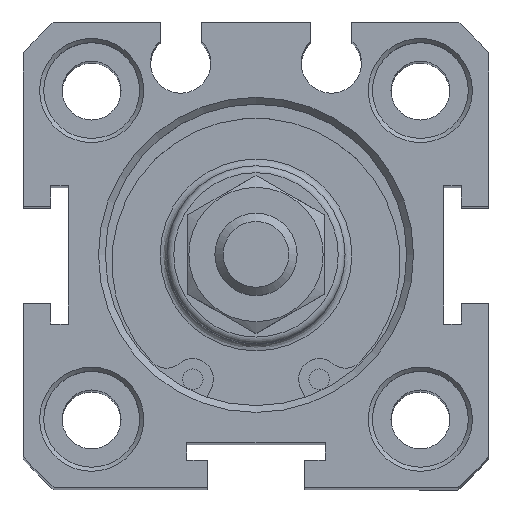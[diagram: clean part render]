
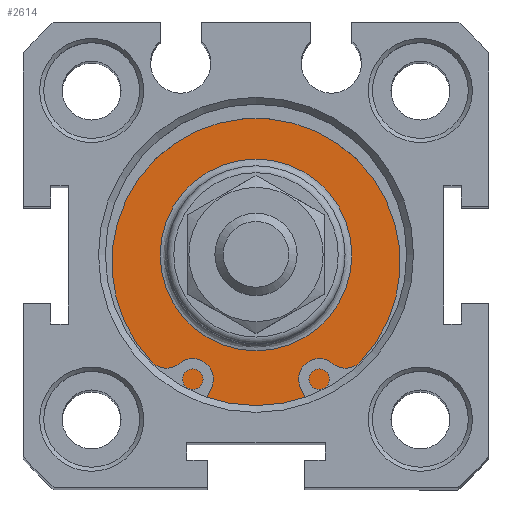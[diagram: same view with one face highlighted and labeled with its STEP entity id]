
A CAD part, top view. The second image highlights one B-rep face of the part: STEP entity #2614.
In plain terms, the highlighted planar face has unit normal (0, 0, 1).
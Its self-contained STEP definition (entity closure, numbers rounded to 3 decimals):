
#2552=CARTESIAN_POINT('',(0.957,6.522,91.8));
#2553=VERTEX_POINT('',#2552);
#2554=CARTESIAN_POINT('',(0.957,-0.478,91.8));
#2555=DIRECTION('',(0.0,0.0,1.0));
#2556=DIRECTION('',(0.0,-1.0,0.0));
#2557=AXIS2_PLACEMENT_3D('',#2554,#2555,#2556);
#2558=CIRCLE('',#2557,7.);
#2559=EDGE_CURVE('',#2553,#2553,#2558,.T.);
#2595=CARTESIAN_POINT('',(0.957,8.272,91.8));
#2596=DIRECTION('',(0.0,0.0,1.0));
#2597=DIRECTION('',(1.0,0.0,0.0));
#2598=AXIS2_PLACEMENT_3D('',#2595,#2596,#2597);
#2599=PLANE('',#2598);
#2600=CARTESIAN_POINT('',(0.957,10.522,91.8));
#2601=VERTEX_POINT('',#2600);
#2602=CARTESIAN_POINT('',(0.957,-0.478,91.8));
#2603=DIRECTION('',(0.0,0.0,1.0));
#2604=DIRECTION('',(0.0,1.0,0.0));
#2605=AXIS2_PLACEMENT_3D('',#2602,#2603,#2604);
#2606=CIRCLE('',#2605,11.);
#2607=EDGE_CURVE('',#2601,#2601,#2606,.T.);
#2608=ORIENTED_EDGE('',*,*,#2607,.T.);
#2609=EDGE_LOOP('',(#2608));
#2610=FACE_OUTER_BOUND('',#2609,.T.);
#2611=ORIENTED_EDGE('',*,*,#2559,.F.);
#2612=EDGE_LOOP('',(#2611));
#2613=FACE_BOUND('',#2612,.T.);
#2614=ADVANCED_FACE('',(#2610,#2613),#2599,.T.);
